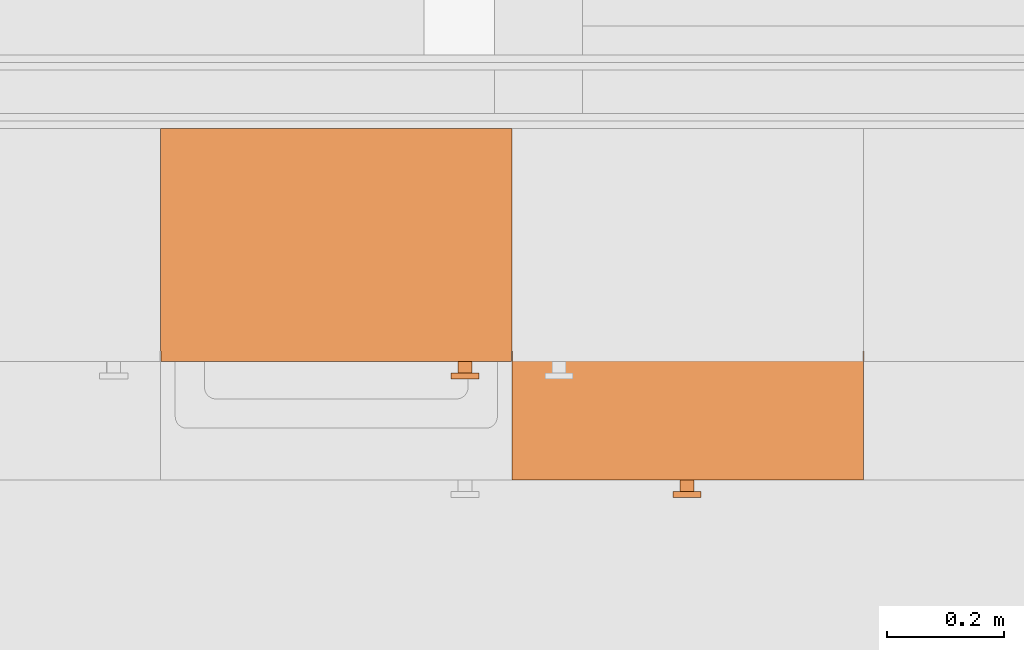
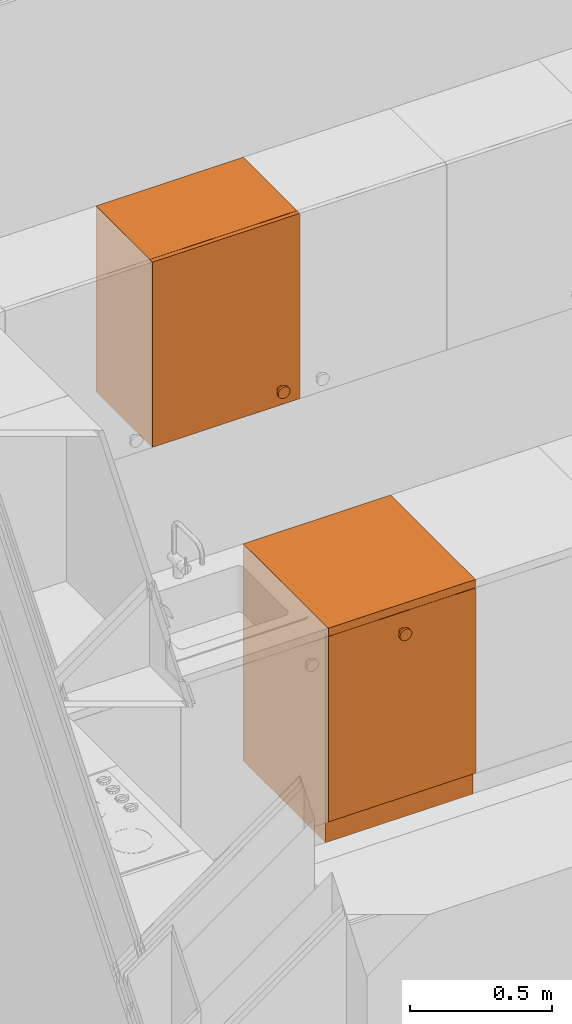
# One storey, part 131 of 165: 2 proxies.
"""IFC2X3 building model written with IfcOpenShell, lengths in millimetres."""

from ifc_helpers import new_model, entity, si_unit, converted_unit, derived_unit, money_unit, direction, frame, origin_with_axes, place, context, subcontext, project, spatial, faceted_brep, source, transform, mapped, type_object, type_shapes, element, save


model = new_model("IFC2X3")

# Units and contexts
model_context = context("Model", 3, precision=0.01, world=origin_with_axes(), true_north=direction((0.0, 1.0)))
body_context = subcontext(model_context, "Body", "Model", "MODEL_VIEW")
ifc_project = project(units=[si_unit("LENGTHUNIT", "METRE", prefix="MILLI"), si_unit("AREAUNIT", "SQUARE_METRE"), si_unit("VOLUMEUNIT", "CUBIC_METRE"), converted_unit("PLANEANGLEUNIT", "DEGREE", entity("IfcPlaneAngleMeasure", 0.0174532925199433), si_unit("PLANEANGLEUNIT", "RADIAN"), dimensions=[0, 0, 0, 0, 0, 0, 0]), money_unit("EUR"), converted_unit("TIMEUNIT", "Year", entity("IfcTimeMeasure", 31556926.0), si_unit("TIMEUNIT", "SECOND"), dimensions=[0, 0, 1, 0, 0, 0, 0]), si_unit("MASSUNIT", "GRAM", prefix="KILO"), si_unit("THERMODYNAMICTEMPERATUREUNIT", "DEGREE_CELSIUS"), si_unit("LUMINOUSINTENSITYUNIT", "LUMEN"), si_unit("ENERGYUNIT", "JOULE", prefix="MEGA"), derived_unit("THERMALCONDUCTANCEUNIT", [(si_unit("POWERUNIT", "WATT"), 1), (si_unit("LENGTHUNIT", "METRE"), -1), (si_unit("THERMODYNAMICTEMPERATUREUNIT", "KELVIN"), -1)]), derived_unit("SPECIFICHEATCAPACITYUNIT", [(si_unit("ENERGYUNIT", "JOULE"), 1), (si_unit("MASSUNIT", "GRAM", prefix="KILO"), -1), (si_unit("THERMODYNAMICTEMPERATUREUNIT", "KELVIN"), -1)]), derived_unit("MASSDENSITYUNIT", [(si_unit("MASSUNIT", "GRAM", prefix="KILO"), 1), (si_unit("VOLUMEUNIT", "CUBIC_METRE"), -1)])], contexts=[model_context])

# Site, building, storey
site_placement = place(None, origin_with_axes())
site = spatial("IfcSite", under=ifc_project, at=site_placement, Name="Site", CompositionType="ELEMENT")
building_placement = place(site_placement, origin_with_axes())
building = spatial("IfcBuilding", under=site, at=building_placement, Name="Naam gebouw", CompositionType="ELEMENT")
storey_placement = place(building_placement, origin_with_axes())
storey = spatial("IfcBuildingStorey", under=building, at=storey_placement, Name="Begane grond", CompositionType="ELEMENT", Elevation=0.0)

# Proxies
building_element_proxy_type_1 = type_object("IfcBuildingElementProxyType", Name="Bovenkast recht 26", PredefinedType="NOTDEFINED")
shared_shape_1 = source(origin_with_axes(), body_context, "Body", "Brep", [
    faceted_brep([(18.0, -380.0, 1891.0), (582.0, -380.0, 1891.0), (582.0, -380.0, 1909.0), (18.0, -380.0, 1909.0), (18.0, -18.0, 1891.0), (582.0, -18.0, 1891.0), (582.0, -18.0, 1909.0), (18.0, -18.0, 1909.0)], [[[0, 1, 2, 3]], [[0, 4, 5, 1]], [[1, 5, 6, 2]], [[3, 2, 6, 7]], [[4, 0, 3, 7]], [[5, 4, 7, 6]]]),
    faceted_brep([(531.8176930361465, -398.0, 1570.916221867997), (531.2763114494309, -398.0, 1568.895758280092), (530.3923048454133, -398.0, 1567.0), (529.1925333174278, -398.0, 1565.286548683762), (527.7134513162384, -398.0, 1563.807466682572), (526.0, -398.0, 1562.607695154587), (524.104241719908, -398.0, 1561.723688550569), (522.0837781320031, -398.0, 1561.182306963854), (520.0, -398.0, 1561.0), (517.9162218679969, -398.0, 1561.182306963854), (515.8957582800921, -398.0, 1561.723688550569), (514.0, -398.0, 1562.607695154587), (512.2865486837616, -398.0, 1563.807466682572), (510.8074666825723, -398.0, 1565.286548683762), (509.6076951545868, -398.0, 1567.0), (508.7236885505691, -398.0, 1568.895758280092), (508.1823069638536, -398.0, 1570.916221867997), (508.0, -398.0, 1573.0), (508.1823069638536, -398.0, 1575.083778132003), (508.7236885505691, -398.0, 1577.104241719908), (509.6076951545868, -398.0, 1579.0), (510.8074666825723, -398.0, 1580.713451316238), (512.2865486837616, -398.0, 1582.192533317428), (514.0, -398.0, 1583.392304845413), (515.8957582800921, -398.0, 1584.276311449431), (517.9162218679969, -398.0, 1584.817693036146), (520.0, -398.0, 1585.0), (522.0837781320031, -398.0, 1584.817693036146), (524.104241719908, -398.0, 1584.276311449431), (526.0, -398.0, 1583.392304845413), (527.7134513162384, -398.0, 1582.192533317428), (529.1925333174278, -398.0, 1580.713451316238), (530.3923048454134, -398.0, 1579.0), (531.2763114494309, -398.0, 1577.104241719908), (531.8176930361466, -398.0, 1575.083778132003), (532.0, -398.0, 1573.0), (531.8176930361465, -418.0000000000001, 1570.916221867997), (531.2763114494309, -418.0000000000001, 1568.895758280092), (530.3923048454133, -418.0000000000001, 1567.0), (529.1925333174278, -418.0000000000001, 1565.286548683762), (527.7134513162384, -418.0000000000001, 1563.807466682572), (526.0, -418.0000000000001, 1562.607695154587), (524.104241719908, -418.0000000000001, 1561.723688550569), (522.0837781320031, -418.0000000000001, 1561.182306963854), (520.0, -418.0000000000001, 1561.0), (517.9162218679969, -418.0000000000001, 1561.182306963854), (515.8957582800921, -418.0000000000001, 1561.723688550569), (514.0, -418.0000000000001, 1562.607695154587), (512.2865486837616, -418.0000000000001, 1563.807466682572), (510.8074666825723, -418.0000000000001, 1565.286548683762), (509.6076951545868, -418.0000000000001, 1567.0), (508.7236885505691, -418.0000000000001, 1568.895758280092), (508.1823069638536, -418.0000000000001, 1570.916221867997), (508.0, -418.0000000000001, 1573.0), (508.1823069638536, -418.0000000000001, 1575.083778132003), (508.7236885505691, -418.0000000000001, 1577.104241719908), (509.6076951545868, -418.0000000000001, 1579.0), (510.8074666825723, -418.0000000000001, 1580.713451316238), (512.2865486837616, -418.0000000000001, 1582.192533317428), (514.0, -418.0000000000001, 1583.392304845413), (515.8957582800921, -418.0000000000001, 1584.276311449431), (517.9162218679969, -418.0000000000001, 1584.817693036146), (520.0, -418.0000000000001, 1585.0), (522.0837781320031, -418.0000000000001, 1584.817693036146), (524.104241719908, -418.0000000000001, 1584.276311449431), (526.0, -418.0000000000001, 1583.392304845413), (527.7134513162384, -418.0000000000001, 1582.192533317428), (529.1925333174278, -418.0000000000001, 1580.713451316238), (530.3923048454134, -418.0000000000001, 1579.0), (531.2763114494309, -418.0000000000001, 1577.104241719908), (531.8176930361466, -418.0000000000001, 1575.083778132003), (532.0, -418.0000000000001, 1573.0)], [[[0, 1, 2, 3, 4, 5, 6, 7, 8, 9, 10, 11, 12, 13, 14, 15, 16, 17, 18, 19, 20, 21, 22, 23, 24, 25, 26, 27, 28, 29, 30, 31, 32, 33, 34, 35]], [[1, 0, 36, 37]], [[2, 1, 37, 38]], [[3, 2, 38, 39]], [[4, 3, 39, 40]], [[5, 4, 40, 41]], [[6, 5, 41, 42]], [[7, 6, 42, 43]], [[8, 7, 43, 44]], [[9, 8, 44, 45]], [[10, 9, 45, 46]], [[11, 10, 46, 47]], [[12, 11, 47, 48]], [[13, 12, 48, 49]], [[14, 13, 49, 50]], [[15, 14, 50, 51]], [[16, 15, 51, 52]], [[17, 16, 52, 53]], [[18, 17, 53, 54]], [[19, 18, 54, 55]], [[20, 19, 55, 56]], [[21, 20, 56, 57]], [[22, 21, 57, 58]], [[23, 22, 58, 59]], [[24, 23, 59, 60]], [[25, 24, 60, 61]], [[26, 25, 61, 62]], [[27, 26, 62, 63]], [[28, 27, 63, 64]], [[29, 28, 64, 65]], [[30, 29, 65, 66]], [[31, 30, 66, 67]], [[32, 31, 67, 68]], [[33, 32, 68, 69]], [[34, 33, 69, 70]], [[35, 34, 70, 71]], [[0, 35, 71, 36]], [[36, 71, 70, 69, 68, 67, 66, 65, 64, 63, 62, 61, 60, 59, 58, 57, 56, 55, 54, 53, 52, 51, 50, 49, 48, 47, 46, 45, 44, 43, 42, 41, 40, 39, 38, 37]]]),
    faceted_brep([(543.635386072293, -418.0000000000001, 1568.832443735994), (542.5526228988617, -418.0000000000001, 1564.791516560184), (540.7846096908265, -418.0000000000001, 1561.0), (538.3850666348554, -418.0000000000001, 1557.573097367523), (535.426902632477, -418.0000000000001, 1554.614933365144), (532.0, -418.0000000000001, 1552.215390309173), (528.2084834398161, -418.0000000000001, 1550.447377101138), (524.1675562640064, -418.0000000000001, 1549.364613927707), (520.0, -418.0000000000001, 1549.0), (515.8324437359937, -418.0000000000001, 1549.364613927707), (511.7915165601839, -418.0000000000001, 1550.447377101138), (508.0, -418.0000000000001, 1552.215390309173), (504.5730973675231, -418.0000000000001, 1554.614933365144), (501.6149333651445, -418.0000000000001, 1557.573097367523), (499.2153903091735, -418.0000000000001, 1561.0), (497.4473771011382, -418.0000000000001, 1564.791516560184), (496.364613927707, -418.0000000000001, 1568.832443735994), (496.0000000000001, -418.0000000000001, 1573.0), (496.364613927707, -418.0000000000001, 1577.167556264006), (497.4473771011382, -418.0000000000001, 1581.208483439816), (499.2153903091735, -418.0000000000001, 1585.0), (501.6149333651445, -418.0000000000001, 1588.426902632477), (504.5730973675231, -418.0000000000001, 1591.385066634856), (508.0, -418.0000000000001, 1593.784609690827), (511.7915165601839, -418.0000000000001, 1595.552622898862), (515.8324437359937, -418.0000000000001, 1596.635386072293), (520.0, -418.0000000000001, 1597.0), (524.1675562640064, -418.0000000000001, 1596.635386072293), (528.2084834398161, -418.0000000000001, 1595.552622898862), (532.0, -418.0000000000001, 1593.784609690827), (535.426902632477, -418.0000000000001, 1591.385066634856), (538.3850666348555, -418.0000000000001, 1588.426902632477), (540.7846096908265, -418.0000000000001, 1585.0), (542.5526228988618, -418.0000000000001, 1581.208483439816), (543.635386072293, -418.0000000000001, 1577.167556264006), (544.0, -418.0000000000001, 1573.0), (543.635386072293, -428.0000000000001, 1568.832443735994), (542.5526228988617, -428.0000000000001, 1564.791516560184), (540.7846096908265, -428.0000000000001, 1561.0), (538.3850666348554, -428.0000000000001, 1557.573097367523), (535.426902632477, -428.0000000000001, 1554.614933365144), (532.0, -428.0000000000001, 1552.215390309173), (528.2084834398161, -428.0000000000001, 1550.447377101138), (524.1675562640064, -428.0000000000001, 1549.364613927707), (520.0, -428.0000000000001, 1549.0), (515.8324437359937, -428.0000000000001, 1549.364613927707), (511.7915165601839, -428.0000000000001, 1550.447377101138), (508.0, -428.0000000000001, 1552.215390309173), (504.5730973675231, -428.0000000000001, 1554.614933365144), (501.6149333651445, -428.0000000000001, 1557.573097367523), (499.2153903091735, -428.0000000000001, 1561.0), (497.4473771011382, -428.0000000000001, 1564.791516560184), (496.364613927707, -428.0000000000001, 1568.832443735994), (496.0000000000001, -428.0000000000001, 1573.0), (496.364613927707, -428.0000000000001, 1577.167556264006), (497.4473771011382, -428.0000000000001, 1581.208483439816), (499.2153903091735, -428.0000000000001, 1585.0), (501.6149333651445, -428.0000000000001, 1588.426902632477), (504.5730973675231, -428.0000000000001, 1591.385066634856), (508.0, -428.0000000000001, 1593.784609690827), (511.7915165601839, -428.0000000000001, 1595.552622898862), (515.8324437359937, -428.0000000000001, 1596.635386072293), (520.0, -428.0000000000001, 1597.0), (524.1675562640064, -428.0000000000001, 1596.635386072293), (528.2084834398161, -428.0000000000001, 1595.552622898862), (532.0, -428.0000000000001, 1593.784609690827), (535.426902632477, -428.0000000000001, 1591.385066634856), (538.3850666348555, -428.0000000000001, 1588.426902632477), (540.7846096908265, -428.0000000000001, 1585.0), (542.5526228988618, -428.0000000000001, 1581.208483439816), (543.635386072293, -428.0000000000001, 1577.167556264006), (544.0, -428.0000000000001, 1573.0)], [[[0, 1, 2, 3, 4, 5, 6, 7, 8, 9, 10, 11, 12, 13, 14, 15, 16, 17, 18, 19, 20, 21, 22, 23, 24, 25, 26, 27, 28, 29, 30, 31, 32, 33, 34, 35]], [[1, 0, 36, 37]], [[2, 1, 37, 38]], [[3, 2, 38, 39]], [[4, 3, 39, 40]], [[5, 4, 40, 41]], [[6, 5, 41, 42]], [[7, 6, 42, 43]], [[8, 7, 43, 44]], [[9, 8, 44, 45]], [[10, 9, 45, 46]], [[11, 10, 46, 47]], [[12, 11, 47, 48]], [[13, 12, 48, 49]], [[14, 13, 49, 50]], [[15, 14, 50, 51]], [[16, 15, 51, 52]], [[17, 16, 52, 53]], [[18, 17, 53, 54]], [[19, 18, 54, 55]], [[20, 19, 55, 56]], [[21, 20, 56, 57]], [[22, 21, 57, 58]], [[23, 22, 58, 59]], [[24, 23, 59, 60]], [[25, 24, 60, 61]], [[26, 25, 61, 62]], [[27, 26, 62, 63]], [[28, 27, 63, 64]], [[29, 28, 64, 65]], [[30, 29, 65, 66]], [[31, 30, 66, 67]], [[32, 31, 67, 68]], [[33, 32, 68, 69]], [[34, 33, 69, 70]], [[35, 34, 70, 71]], [[0, 35, 71, 36]], [[36, 71, 70, 69, 68, 67, 66, 65, 64, 63, 62, 61, 60, 59, 58, 57, 56, 55, 54, 53, 52, 51, 50, 49, 48, 47, 46, 45, 44, 43, 42, 41, 40, 39, 38, 37]]]),
    faceted_brep([(1.0, -380.0, 1501.0), (599.0, -380.0, 1501.0), (599.0, -398.0, 1501.0), (1.0, -398.0, 1501.0), (1.0, -379.9999999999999, 2299.0), (599.0, -379.9999999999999, 2299.0), (599.0, -397.9999999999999, 2299.0), (1.0, -397.9999999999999, 2299.0)], [[[0, 1, 2, 3]], [[0, 4, 5, 1]], [[1, 5, 6, 2]], [[3, 2, 6, 7]], [[4, 0, 3, 7]], [[5, 4, 7, 6]]]),
    faceted_brep([(18.0, -380.0, 1500.0), (582.0, -380.0, 1500.0), (582.0, -380.0, 1518.0), (18.0, -380.0, 1518.0), (18.0, 0.0, 1500.0), (582.0, 0.0, 1500.0), (582.0, 0.0, 1518.0), (18.0, 0.0, 1518.0)], [[[0, 1, 2, 3]], [[0, 4, 5, 1]], [[1, 5, 6, 2]], [[3, 2, 6, 7]], [[4, 0, 3, 7]], [[5, 4, 7, 6]]]),
    faceted_brep([(18.0, -380.0, 2282.0), (582.0, -380.0, 2282.0), (582.0, -380.0, 2300.0), (18.0, -380.0, 2300.0), (18.0, 0.0, 2282.0), (582.0, 0.0, 2282.0), (582.0, 0.0, 2300.0), (18.0, 0.0, 2300.0)], [[[0, 1, 2, 3]], [[0, 4, 5, 1]], [[1, 5, 6, 2]], [[3, 2, 6, 7]], [[4, 0, 3, 7]], [[5, 4, 7, 6]]]),
    faceted_brep([(0.0, 0.0, 1500.0), (0.0, -380.0, 1500.0), (0.0, -380.0, 2300.0), (0.0, 0.0, 2300.0), (18.0, 0.0, 1500.0), (18.0, -380.0, 1500.0), (18.0, -380.0, 2300.0), (18.0, 0.0, 2300.0)], [[[0, 1, 2, 3]], [[0, 4, 5, 1]], [[1, 5, 6, 2]], [[3, 2, 6, 7]], [[4, 0, 3, 7]], [[5, 4, 7, 6]]]),
    faceted_brep([(600.0, -380.0, 1500.0), (600.0, 0.0, 1500.0), (600.0, 0.0, 2300.0), (600.0, -380.0, 2300.0), (582.0, -380.0, 1500.0), (582.0, 0.0, 1500.0), (582.0, 0.0, 2300.0), (582.0, -380.0, 2300.0)], [[[0, 1, 2, 3]], [[0, 4, 5, 1]], [[1, 5, 6, 2]], [[3, 2, 6, 7]], [[4, 0, 3, 7]], [[5, 4, 7, 6]]]),
    faceted_brep([(582.0, -9.0, 1518.0), (18.00000000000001, -9.0, 1518.0), (18.00000000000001, -9.0, 2282.0), (582.0, -9.0, 2282.0), (582.0, -18.0, 1518.0), (18.00000000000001, -18.0, 1518.0), (18.00000000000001, -18.0, 2282.0), (582.0, -18.0, 2282.0)], [[[0, 1, 2, 3]], [[0, 4, 5, 1]], [[1, 5, 6, 2]], [[3, 2, 6, 7]], [[4, 0, 3, 7]], [[5, 4, 7, 6]]]),
])
type_shapes(building_element_proxy_type_1, [shared_shape_1])
proxy_1_placement = place(storey_placement, frame((21964.99903999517, 13104.99770206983, 300.0000000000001), z_axis=(0.0, 0.0, 1.0), x_axis=(1.0, 0.0, 0.0)))
element("IfcBuildingElementProxy", 1, at=proxy_1_placement, inside=storey, type_object=building_element_proxy_type_1, Name="_Leeg", context=body_context, shape_type="MappedRepresentation", body=[
    mapped(shared_shape_1, transform((0.0, 0.0, 0.0))),
])
building_element_proxy_type_2 = type_object("IfcBuildingElementProxyType", Name="Onderkast recht 26", PredefinedType="NOTDEFINED")
shared_shape_2 = source(origin_with_axes(), body_context, "Body", "Brep", [
    faceted_brep([(0.0, -600.0, 900.0), (0.0, -600.0, 935.0), (-600.0, -600.0, 935.0), (-600.0, -600.0, 900.0), (0.0, 0.0, 900.0), (0.0, 0.0, 935.0), (-600.0, 0.0, 935.0), (-600.0, 0.0, 900.0)], [[[0, 1, 2, 3]], [[4, 5, 1, 0]], [[1, 5, 6, 2]], [[3, 2, 6, 7]], [[0, 3, 7, 4]], [[7, 6, 5, 4]]]),
    faceted_brep([(-312.8176930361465, -600.0, 817.9162218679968), (-313.0, -600.0, 820.0), (-312.8176930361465, -600.0, 822.0837781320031), (-312.2763114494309, -600.0, 824.1042417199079), (-311.3923048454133, -600.0, 826.0), (-310.1925333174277, -600.0, 827.7134513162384), (-308.7134513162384, -600.0, 829.1925333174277), (-307.0, -600.0, 830.3923048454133), (-305.104241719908, -600.0, 831.2763114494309), (-303.0837781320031, -600.0, 831.8176930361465), (-301.0, -600.0, 832.0), (-298.9162218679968, -600.0, 831.8176930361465), (-296.895758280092, -600.0, 831.2763114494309), (-295.0, -600.0, 830.3923048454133), (-293.2865486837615, -600.0, 829.1925333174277), (-291.8074666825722, -600.0, 827.7134513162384), (-290.6076951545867, -600.0, 826.0), (-289.7236885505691, -600.0, 824.1042417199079), (-289.1823069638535, -600.0, 822.0837781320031), (-289.0, -600.0, 820.0), (-289.1823069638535, -600.0, 817.9162218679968), (-289.7236885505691, -600.0, 815.895758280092), (-290.6076951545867, -600.0, 814.0), (-291.8074666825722, -600.0, 812.2865486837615), (-293.2865486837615, -600.0, 810.8074666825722), (-295.0, -600.0, 809.6076951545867), (-296.895758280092, -600.0, 808.7236885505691), (-298.9162218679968, -600.0, 808.1823069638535), (-301.0, -600.0, 807.9999999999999), (-303.0837781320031, -600.0, 808.1823069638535), (-305.104241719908, -600.0, 808.7236885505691), (-307.0, -600.0, 809.6076951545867), (-308.7134513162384, -600.0, 810.8074666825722), (-310.1925333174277, -600.0, 812.2865486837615), (-311.3923048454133, -600.0, 814.0), (-312.2763114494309, -600.0, 815.895758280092), (-312.8176930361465, -620.0, 817.9162218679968), (-313.0, -620.0, 820.0), (-312.8176930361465, -620.0, 822.0837781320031), (-312.2763114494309, -620.0, 824.1042417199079), (-311.3923048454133, -620.0, 826.0), (-310.1925333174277, -620.0, 827.7134513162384), (-308.7134513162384, -620.0, 829.1925333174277), (-307.0, -620.0, 830.3923048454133), (-305.104241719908, -620.0, 831.2763114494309), (-303.0837781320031, -620.0, 831.8176930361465), (-301.0, -620.0, 832.0), (-298.9162218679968, -620.0, 831.8176930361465), (-296.895758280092, -620.0, 831.2763114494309), (-295.0, -620.0, 830.3923048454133), (-293.2865486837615, -620.0, 829.1925333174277), (-291.8074666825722, -620.0, 827.7134513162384), (-290.6076951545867, -620.0, 826.0), (-289.7236885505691, -620.0, 824.1042417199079), (-289.1823069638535, -620.0, 822.0837781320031), (-289.0, -620.0, 820.0), (-289.1823069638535, -620.0, 817.9162218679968), (-289.7236885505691, -620.0, 815.895758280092), (-290.6076951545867, -620.0, 814.0), (-291.8074666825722, -620.0, 812.2865486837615), (-293.2865486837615, -620.0, 810.8074666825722), (-295.0, -620.0, 809.6076951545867), (-296.895758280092, -620.0, 808.7236885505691), (-298.9162218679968, -620.0, 808.1823069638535), (-301.0, -620.0, 807.9999999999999), (-303.0837781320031, -620.0, 808.1823069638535), (-305.104241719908, -620.0, 808.7236885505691), (-307.0, -620.0, 809.6076951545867), (-308.7134513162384, -620.0, 810.8074666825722), (-310.1925333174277, -620.0, 812.2865486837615), (-311.3923048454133, -620.0, 814.0), (-312.2763114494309, -620.0, 815.895758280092)], [[[0, 1, 2, 3, 4, 5, 6, 7, 8, 9, 10, 11, 12, 13, 14, 15, 16, 17, 18, 19, 20, 21, 22, 23, 24, 25, 26, 27, 28, 29, 30, 31, 32, 33, 34, 35]], [[0, 36, 37, 1]], [[1, 37, 38, 2]], [[2, 38, 39, 3]], [[3, 39, 40, 4]], [[4, 40, 41, 5]], [[5, 41, 42, 6]], [[6, 42, 43, 7]], [[7, 43, 44, 8]], [[8, 44, 45, 9]], [[9, 45, 46, 10]], [[10, 46, 47, 11]], [[11, 47, 48, 12]], [[12, 48, 49, 13]], [[13, 49, 50, 14]], [[14, 50, 51, 15]], [[15, 51, 52, 16]], [[16, 52, 53, 17]], [[17, 53, 54, 18]], [[18, 54, 55, 19]], [[19, 55, 56, 20]], [[20, 56, 57, 21]], [[21, 57, 58, 22]], [[22, 58, 59, 23]], [[23, 59, 60, 24]], [[24, 60, 61, 25]], [[25, 61, 62, 26]], [[26, 62, 63, 27]], [[27, 63, 64, 28]], [[28, 64, 65, 29]], [[29, 65, 66, 30]], [[30, 66, 67, 31]], [[31, 67, 68, 32]], [[32, 68, 69, 33]], [[33, 69, 70, 34]], [[34, 70, 71, 35]], [[35, 71, 36, 0]], [[36, 71, 70, 69, 68, 67, 66, 65, 64, 63, 62, 61, 60, 59, 58, 57, 56, 55, 54, 53, 52, 51, 50, 49, 48, 47, 46, 45, 44, 43, 42, 41, 40, 39, 38, 37]]]),
    faceted_brep([(-324.6353860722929, -620.0, 815.8324437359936), (-325.0, -620.0, 820.0), (-324.635386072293, -620.0, 824.1675562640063), (-323.5526228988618, -620.0, 828.2084834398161), (-321.7846096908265, -620.0, 832.0), (-319.3850666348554, -620.0, 835.4269026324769), (-316.4269026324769, -620.0, 838.3850666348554), (-313.0, -620.0, 840.7846096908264), (-309.2084834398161, -620.0, 842.5526228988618), (-305.1675562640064, -620.0, 843.6353860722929), (-301.0, -620.0, 844.0), (-296.8324437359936, -620.0, 843.6353860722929), (-292.7915165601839, -620.0, 842.5526228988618), (-289.0, -620.0, 840.7846096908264), (-285.5730973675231, -620.0, 838.3850666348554), (-282.6149333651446, -620.0, 835.4269026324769), (-280.2153903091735, -620.0, 832.0), (-278.4473771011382, -620.0, 828.2084834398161), (-277.364613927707, -620.0, 824.1675562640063), (-277.0, -620.0, 820.0), (-277.364613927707, -620.0, 815.8324437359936), (-278.4473771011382, -620.0, 811.7915165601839), (-280.2153903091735, -620.0, 807.9999999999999), (-282.6149333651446, -620.0, 804.573097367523), (-285.5730973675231, -620.0, 801.6149333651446), (-289.0, -620.0, 799.2153903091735), (-292.7915165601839, -620.0, 797.4473771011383), (-296.8324437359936, -620.0, 796.364613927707), (-301.0, -620.0, 796.0), (-305.1675562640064, -620.0, 796.364613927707), (-309.208483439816, -620.0, 797.4473771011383), (-312.9999999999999, -620.0, 799.2153903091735), (-316.4269026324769, -620.0, 801.6149333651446), (-319.3850666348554, -620.0, 804.573097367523), (-321.7846096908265, -620.0, 807.9999999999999), (-323.5526228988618, -620.0, 811.7915165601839), (-324.6353860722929, -630.0, 815.8324437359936), (-325.0, -630.0, 820.0), (-324.635386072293, -630.0, 824.1675562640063), (-323.5526228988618, -630.0, 828.2084834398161), (-321.7846096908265, -630.0, 832.0), (-319.3850666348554, -630.0, 835.4269026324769), (-316.4269026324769, -630.0, 838.3850666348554), (-313.0, -630.0, 840.7846096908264), (-309.2084834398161, -630.0, 842.5526228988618), (-305.1675562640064, -630.0, 843.6353860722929), (-301.0, -630.0, 844.0), (-296.8324437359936, -630.0, 843.6353860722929), (-292.7915165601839, -630.0, 842.5526228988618), (-289.0, -630.0, 840.7846096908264), (-285.5730973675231, -630.0, 838.3850666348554), (-282.6149333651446, -630.0, 835.4269026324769), (-280.2153903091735, -630.0, 832.0), (-278.4473771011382, -630.0, 828.2084834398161), (-277.364613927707, -630.0, 824.1675562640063), (-277.0, -630.0, 820.0), (-277.364613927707, -630.0, 815.8324437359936), (-278.4473771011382, -630.0, 811.7915165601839), (-280.2153903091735, -630.0, 807.9999999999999), (-282.6149333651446, -630.0, 804.573097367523), (-285.5730973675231, -630.0, 801.6149333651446), (-289.0, -630.0, 799.2153903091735), (-292.7915165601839, -630.0, 797.4473771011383), (-296.8324437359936, -630.0, 796.364613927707), (-301.0, -630.0, 796.0), (-305.1675562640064, -630.0, 796.364613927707), (-309.208483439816, -630.0, 797.4473771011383), (-312.9999999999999, -630.0, 799.2153903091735), (-316.4269026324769, -630.0, 801.6149333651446), (-319.3850666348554, -630.0, 804.573097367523), (-321.7846096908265, -630.0, 807.9999999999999), (-323.5526228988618, -630.0, 811.7915165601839)], [[[0, 1, 2, 3, 4, 5, 6, 7, 8, 9, 10, 11, 12, 13, 14, 15, 16, 17, 18, 19, 20, 21, 22, 23, 24, 25, 26, 27, 28, 29, 30, 31, 32, 33, 34, 35]], [[0, 36, 37, 1]], [[1, 37, 38, 2]], [[2, 38, 39, 3]], [[3, 39, 40, 4]], [[4, 40, 41, 5]], [[5, 41, 42, 6]], [[6, 42, 43, 7]], [[7, 43, 44, 8]], [[8, 44, 45, 9]], [[9, 45, 46, 10]], [[10, 46, 47, 11]], [[11, 47, 48, 12]], [[12, 48, 49, 13]], [[13, 49, 50, 14]], [[14, 50, 51, 15]], [[15, 51, 52, 16]], [[16, 52, 53, 17]], [[17, 53, 54, 18]], [[18, 54, 55, 19]], [[19, 55, 56, 20]], [[20, 56, 57, 21]], [[21, 57, 58, 22]], [[22, 58, 59, 23]], [[23, 59, 60, 24]], [[24, 60, 61, 25]], [[25, 61, 62, 26]], [[26, 62, 63, 27]], [[27, 63, 64, 28]], [[28, 64, 65, 29]], [[29, 65, 66, 30]], [[30, 66, 67, 31]], [[31, 67, 68, 32]], [[32, 68, 69, 33]], [[33, 69, 70, 34]], [[34, 70, 71, 35]], [[35, 71, 36, 0]], [[36, 71, 70, 69, 68, 67, 66, 65, 64, 63, 62, 61, 60, 59, 58, 57, 56, 55, 54, 53, 52, 51, 50, 49, 48, 47, 46, 45, 44, 43, 42, 41, 40, 39, 38, 37]]]),
    faceted_brep([(-1.0, -582.0, 101.0), (-1.0, -600.0, 101.0), (-599.0, -600.0, 101.0), (-599.0, -582.0, 101.0), (-1.0, -582.0, 899.0), (-1.0, -599.9999999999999, 899.0), (-599.0, -599.9999999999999, 899.0), (-599.0, -582.0, 899.0)], [[[0, 1, 2, 3]], [[4, 5, 1, 0]], [[1, 5, 6, 2]], [[3, 2, 6, 7]], [[0, 3, 7, 4]], [[7, 6, 5, 4]]]),
    faceted_brep([(-18.0, -582.0, 100.0), (-18.0, -582.0, 118.0), (-582.0, -582.0, 118.0), (-582.0, -582.0, 100.0), (-18.0, 0.0, 100.0), (-18.0, 0.0, 118.0), (-582.0, 0.0, 118.0), (-582.0, 0.0, 100.0)], [[[0, 1, 2, 3]], [[4, 5, 1, 0]], [[1, 5, 6, 2]], [[3, 2, 6, 7]], [[0, 3, 7, 4]], [[7, 6, 5, 4]]]),
    faceted_brep([(-18.0, -582.0, 882.0), (-582.0, -582.0, 882.0), (-582.0, -522.0, 882.0), (-18.0, -522.0, 882.0), (-18.0, -582.0, 900.0), (-582.0, -582.0, 900.0), (-582.0, -522.0, 900.0), (-18.0, -522.0, 900.0)], [[[0, 1, 2, 3]], [[4, 5, 1, 0]], [[1, 5, 6, 2]], [[3, 2, 6, 7]], [[0, 3, 7, 4]], [[7, 6, 5, 4]]]),
    faceted_brep([(-582.0, 0.0, 882.0), (-18.0, 0.0, 882.0), (-18.0, -60.0, 882.0), (-582.0, -60.0, 882.0), (-582.0, 0.0, 900.0), (-18.0, 0.0, 900.0), (-18.0, -60.0, 900.0), (-582.0, -60.0, 900.0)], [[[0, 1, 2, 3]], [[4, 5, 1, 0]], [[1, 5, 6, 2]], [[3, 2, 6, 7]], [[0, 3, 7, 4]], [[7, 6, 5, 4]]]),
    faceted_brep([(0.0, 0.0, 100.0), (0.0, 0.0, 900.0), (0.0, -582.0, 900.0), (0.0, -582.0, 100.0), (-18.0, 0.0, 100.0), (-18.0, 0.0, 900.0), (-18.0, -582.0, 900.0), (-18.0, -582.0, 100.0)], [[[0, 1, 2, 3]], [[4, 5, 1, 0]], [[1, 5, 6, 2]], [[3, 2, 6, 7]], [[0, 3, 7, 4]], [[7, 6, 5, 4]]]),
    faceted_brep([(-600.0, -582.0, 100.0), (-600.0, -582.0, 900.0), (-600.0, 0.0, 900.0), (-600.0, 0.0, 100.0), (-582.0, -582.0, 100.0), (-582.0, -582.0, 900.0), (-582.0, 0.0, 900.0), (-582.0, 0.0, 100.0)], [[[0, 1, 2, 3]], [[4, 5, 1, 0]], [[1, 5, 6, 2]], [[3, 2, 6, 7]], [[0, 3, 7, 4]], [[7, 6, 5, 4]]]),
    faceted_brep([(-582.0, -9.0, 118.0), (-582.0, -9.0, 882.0), (-18.00000000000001, -9.0, 882.0), (-18.00000000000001, -9.0, 118.0), (-582.0, -18.0, 118.0), (-582.0, -18.0, 882.0), (-18.00000000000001, -18.0, 882.0), (-18.00000000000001, -18.0, 118.0)], [[[0, 1, 2, 3]], [[4, 5, 1, 0]], [[1, 5, 6, 2]], [[3, 2, 6, 7]], [[0, 3, 7, 4]], [[7, 6, 5, 4]]]),
    faceted_brep([(0.0, -582.0, 0.0), (0.0, -582.0, 100.0), (-600.0, -582.0, 100.0), (-600.0, -582.0, 0.0), (0.0, 0.0, 0.0), (0.0, 0.0, 100.0), (-600.0, 0.0, 100.0), (-600.0, 0.0, 0.0)], [[[0, 1, 2, 3]], [[4, 5, 1, 0]], [[1, 5, 6, 2]], [[3, 2, 6, 7]], [[0, 3, 7, 4]], [[7, 6, 5, 4]]]),
])
type_shapes(building_element_proxy_type_2, [shared_shape_2])
proxy_2_placement = place(storey_placement, frame((23164.99903999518, 13104.99770206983, 0.0), z_axis=(0.0, 0.0, 1.0), x_axis=(1.0, 0.0, 0.0)))
element("IfcBuildingElementProxy", 2, at=proxy_2_placement, inside=storey, type_object=building_element_proxy_type_2, Name="_Leeg", context=body_context, shape_type="MappedRepresentation", body=[
    mapped(shared_shape_2, transform((0.0, 0.0, 0.0))),
])

save(model, "model.ifc")
